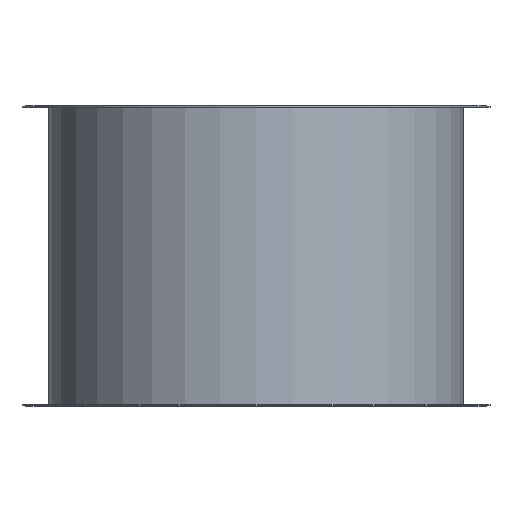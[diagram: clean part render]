
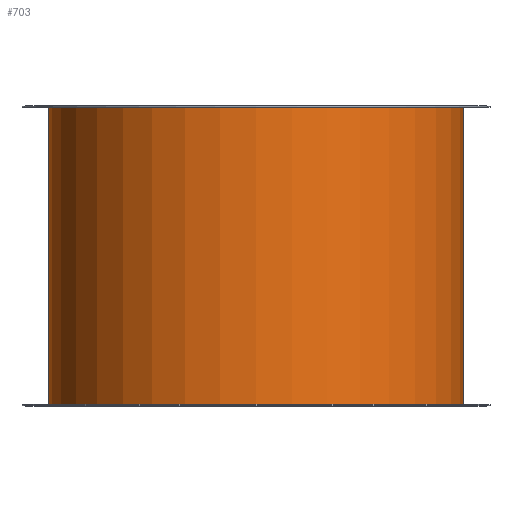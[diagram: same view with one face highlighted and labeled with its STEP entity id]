
A CAD part, top view. The second image highlights one B-rep face of the part: STEP entity #703.
In plain terms, the highlighted cylindrical face has radius 228.5 mm (diameter 457 mm), a full revolution.
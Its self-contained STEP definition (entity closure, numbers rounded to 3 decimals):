
#99=FACE_OUTER_BOUND('',#157,.T.);
#157=EDGE_LOOP('',(#603,#604,#605,#606,#607,#608));
#213=LINE('',#1221,#241);
#241=VECTOR('',#1029,228.5);
#299=CIRCLE('',#811,228.5);
#300=CIRCLE('',#812,228.5);
#301=CIRCLE('',#814,228.5);
#302=CIRCLE('',#815,228.5);
#363=VERTEX_POINT('',#1212);
#364=VERTEX_POINT('',#1213);
#365=VERTEX_POINT('',#1217);
#366=VERTEX_POINT('',#1218);
#453=EDGE_CURVE('',#363,#364,#299,.T.);
#454=EDGE_CURVE('',#364,#363,#300,.T.);
#455=EDGE_CURVE('',#365,#366,#301,.T.);
#456=EDGE_CURVE('',#366,#365,#302,.T.);
#457=EDGE_CURVE('',#366,#364,#213,.T.);
#603=ORIENTED_EDGE('',*,*,#455,.F.);
#604=ORIENTED_EDGE('',*,*,#456,.F.);
#605=ORIENTED_EDGE('',*,*,#457,.T.);
#606=ORIENTED_EDGE('',*,*,#454,.T.);
#607=ORIENTED_EDGE('',*,*,#453,.T.);
#608=ORIENTED_EDGE('',*,*,#457,.F.);
#673=CYLINDRICAL_SURFACE('',#813,228.5);
#703=ADVANCED_FACE('',(#99),#673,.T.);
#811=AXIS2_PLACEMENT_3D('',#1214,#1019,#1020);
#812=AXIS2_PLACEMENT_3D('',#1215,#1021,#1022);
#813=AXIS2_PLACEMENT_3D('',#1216,#1023,#1024);
#814=AXIS2_PLACEMENT_3D('',#1219,#1025,#1026);
#815=AXIS2_PLACEMENT_3D('',#1220,#1027,#1028);
#1019=DIRECTION('center_axis',(0.,1.,0.));
#1020=DIRECTION('ref_axis',(1.,0.,0.));
#1021=DIRECTION('center_axis',(0.,1.,0.));
#1022=DIRECTION('ref_axis',(1.,0.,0.));
#1023=DIRECTION('center_axis',(0.,1.,0.));
#1024=DIRECTION('ref_axis',(-1.,0.,0.));
#1025=DIRECTION('center_axis',(0.,1.,0.));
#1026=DIRECTION('ref_axis',(1.,0.,0.));
#1027=DIRECTION('center_axis',(0.,1.,0.));
#1028=DIRECTION('ref_axis',(1.,0.,0.));
#1029=DIRECTION('',(0.,-1.,0.));
#1212=CARTESIAN_POINT('',(-228.5,1.5,0.));
#1213=CARTESIAN_POINT('',(228.5,1.5,0.));
#1214=CARTESIAN_POINT('Origin',(0.,1.5,0.));
#1215=CARTESIAN_POINT('Origin',(0.,1.5,0.));
#1216=CARTESIAN_POINT('Origin',(0.,165.,0.));
#1217=CARTESIAN_POINT('',(-228.5,328.5,0.));
#1218=CARTESIAN_POINT('',(228.5,328.5,0.));
#1219=CARTESIAN_POINT('Origin',(0.,328.5,0.));
#1220=CARTESIAN_POINT('Origin',(0.,328.5,0.));
#1221=CARTESIAN_POINT('',(228.5,165.,0.));
